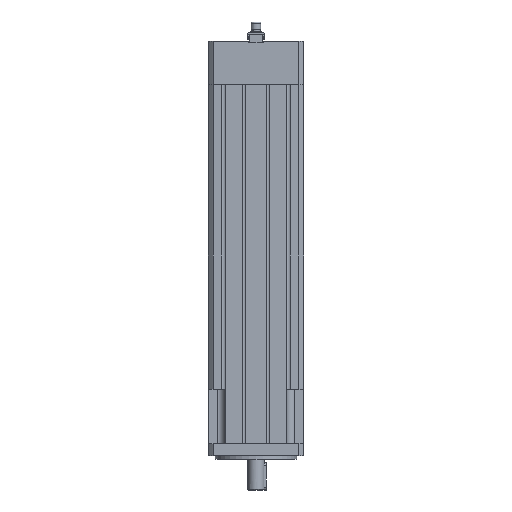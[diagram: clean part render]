
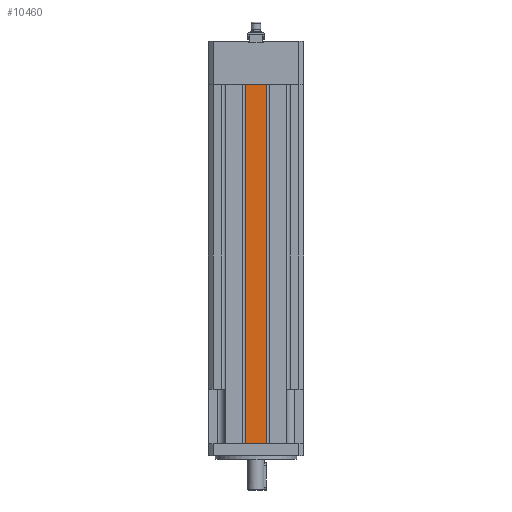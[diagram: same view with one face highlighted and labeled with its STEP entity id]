
A CAD part, front view. The second image highlights one B-rep face of the part: STEP entity #10460.
In plain terms, the highlighted planar face has unit normal (0, -1, 0).
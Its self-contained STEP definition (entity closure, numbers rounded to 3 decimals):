
#253 = DIRECTION ( 'NONE',  ( 1., 0., 0. ) ) ;
#607 = DIRECTION ( 'NONE',  ( 1., 0., 0. ) ) ;
#764 = FACE_OUTER_BOUND ( 'NONE', #10618, .T. ) ;
#982 = CARTESIAN_POINT ( 'NONE',  ( 7.547, -35., 264. ) ) ;
#1273 = CARTESIAN_POINT ( 'NONE',  ( 7.547, -35., 0. ) ) ;
#1394 = DIRECTION ( 'NONE',  ( 0., 0., -1. ) ) ;
#1581 = ORIENTED_EDGE ( 'NONE', *, *, #10819, .T. ) ;
#2312 = VERTEX_POINT ( 'NONE', #2791 ) ;
#2494 = EDGE_CURVE ( 'NONE', #11690, #2312, #6642, .T. ) ;
#2645 = CARTESIAN_POINT ( 'NONE',  ( -7.547, -35., 0. ) ) ;
#2791 = CARTESIAN_POINT ( 'NONE',  ( -7.547, -35., 0. ) ) ;
#3385 = CARTESIAN_POINT ( 'NONE',  ( -7.547, -35., 264. ) ) ;
#3675 = CARTESIAN_POINT ( 'NONE',  ( -7.547, -35., 264. ) ) ;
#4305 = LINE ( 'NONE', #7617, #9075 ) ;
#4450 = LINE ( 'NONE', #5656, #7420 ) ;
#4691 = PLANE ( 'NONE',  #11821 ) ;
#4871 = EDGE_CURVE ( 'NONE', #11707, #9786, #4305, .T. ) ;
#5379 = CARTESIAN_POINT ( 'NONE',  ( -7.547, -35., 264. ) ) ;
#5656 = CARTESIAN_POINT ( 'NONE',  ( -7.547, -35., 264. ) ) ;
#6642 = LINE ( 'NONE', #3385, #9048 ) ;
#7420 = VECTOR ( 'NONE', #253, 1000. ) ;
#7497 = VECTOR ( 'NONE', #607, 1000. ) ;
#7510 = ORIENTED_EDGE ( 'NONE', *, *, #4871, .F. ) ;
#7617 = CARTESIAN_POINT ( 'NONE',  ( 7.547, -35., 264. ) ) ;
#7787 = LINE ( 'NONE', #2645, #7497 ) ;
#7801 = DIRECTION ( 'NONE',  ( 0., 1., 0. ) ) ;
#9048 = VECTOR ( 'NONE', #9688, 1000. ) ;
#9075 = VECTOR ( 'NONE', #1394, 1000. ) ;
#9688 = DIRECTION ( 'NONE',  ( 0., 0., -1. ) ) ;
#9754 = EDGE_CURVE ( 'NONE', #11690, #11707, #4450, .T. ) ;
#9786 = VERTEX_POINT ( 'NONE', #1273 ) ;
#10393 = ORIENTED_EDGE ( 'NONE', *, *, #9754, .F. ) ;
#10460 = ADVANCED_FACE ( 'NONE', ( #764 ), #4691, .F. ) ;
#10618 = EDGE_LOOP ( 'NONE', ( #1581, #7510, #10393, #12398 ) ) ;
#10819 = EDGE_CURVE ( 'NONE', #2312, #9786, #7787, .T. ) ;
#10920 = DIRECTION ( 'NONE',  ( 0., 0., 1. ) ) ;
#11690 = VERTEX_POINT ( 'NONE', #5379 ) ;
#11707 = VERTEX_POINT ( 'NONE', #982 ) ;
#11821 = AXIS2_PLACEMENT_3D ( 'NONE', #3675, #7801, #10920 ) ;
#12398 = ORIENTED_EDGE ( 'NONE', *, *, #2494, .T. ) ;
